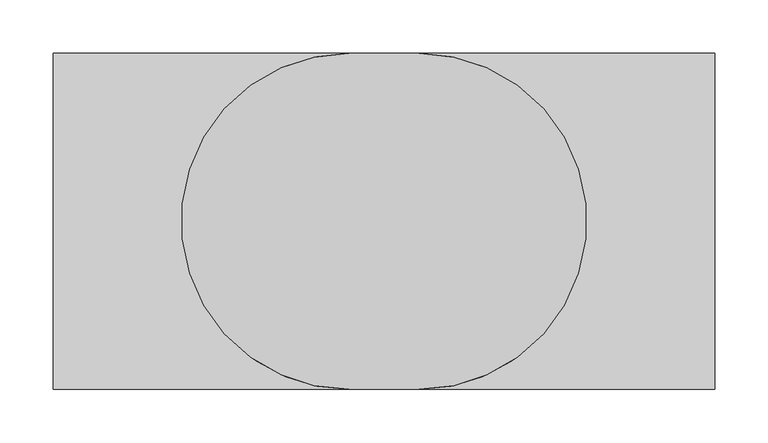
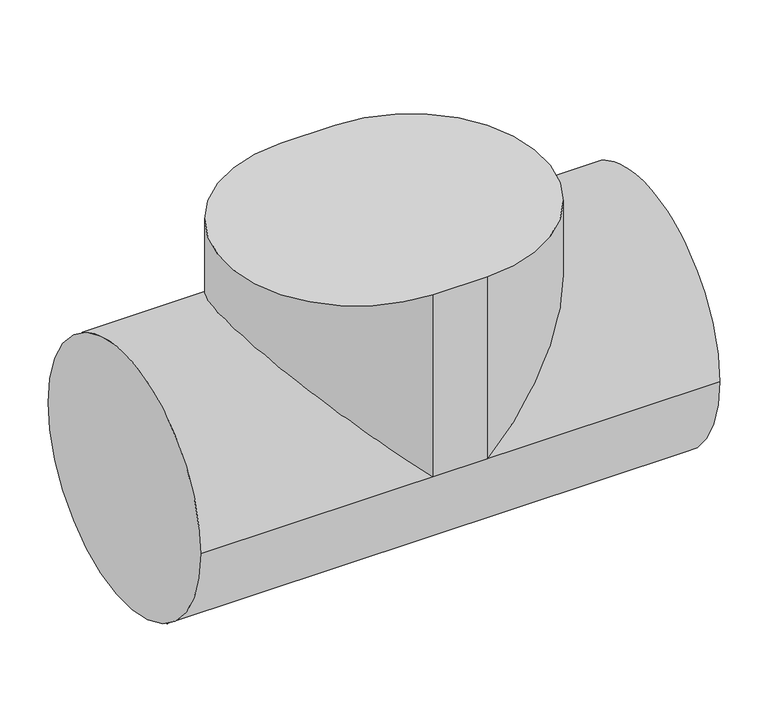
"""IFC4 building model written with IfcOpenShell, lengths in millimetres: pipe fitting geometry, NLRS_52_PIF_UN_PE ontstoppingsstuk 90° met ovale service-opening_geb : DN100-300 / ø110-315."""

import ifcopenshell
import ifcopenshell.guid

model = None  # the IFC model being written
_history = None  # IfcOwnerHistory: only IFC2X3 demands one
_inside = {}  # id of a spatial element -> (the spatial element, [elements in it])
_under = {}  # id of a project, library or spatial element -> (it, [spatial elements below it])
_declared = {}  # id of a project -> (the project, [libraries it declares])
_typed = {}  # id of a type object -> (the type object, [elements of that type])
_made_of = {}  # id of a material, layer set ... -> (it, [elements and type objects made of it])


def new_model(schema):
    """Start an empty IFC model of exactly this schema.

    Asked for "IFC4X3", IfcOpenShell would pick the latest addendum, in which some entities
    have other attributes; the version numbers below select the first issue.
    IFC2X3 requires an IfcOwnerHistory on every rooted entity: one is made here for all.
    """
    global model, _history
    if schema == "IFC4X3":
        model = ifcopenshell.file(schema_version=(4, 3, 0, 0))
    else:
        model = ifcopenshell.file(schema=schema)
    _inside.clear()
    _under.clear()
    _declared.clear()
    _typed.clear()
    _made_of.clear()
    _history = None
    if model.schema == "IFC2X3":
        org = make("IfcOrganization", Name="unknown")
        user = make(
            "IfcPersonAndOrganization",
            ThePerson=make("IfcPerson", FamilyName="unknown"),
            TheOrganization=org,
        )
        app = make(
            "IfcApplication",
            ApplicationDeveloper=org,
            Version="unknown",
            ApplicationFullName="unknown",
            ApplicationIdentifier="unknown",
        )
        _history = make(
            "IfcOwnerHistory",
            OwningUser=user,
            OwningApplication=app,
            ChangeAction="ADDED",
            CreationDate=0,
        )
    return model


def make(cls, **values):
    """One entity of the class cls with the attributes given. An attribute that is None is left unset."""
    return model.create_entity(
        cls, **{name: value for name, value in values.items() if value is not None}
    )


def rooted(cls, **values):
    """An entity with a GlobalId (a new one), such as an element, a storey or a relation."""
    return make(cls, GlobalId=ifcopenshell.guid.new(), OwnerHistory=_history, **values)


def si_unit(unit_type, name, prefix=None):
    """IfcSIUnit, for example si_unit("LENGTHUNIT", "METRE", prefix="MILLI")."""
    return make("IfcSIUnit", UnitType=unit_type, Prefix=prefix, Name=name)


def assignment(units):
    """IfcUnitAssignment: the units of a project."""
    return None if units is None else make("IfcUnitAssignment", Units=units)


def point(xyz):
    """IfcCartesianPoint."""
    return None if xyz is None else make("IfcCartesianPoint", Coordinates=xyz)


def direction(xyz):
    """IfcDirection."""
    return None if xyz is None else make("IfcDirection", DirectionRatios=xyz)


def frame(location, z_axis=None, x_axis=None):
    """IfcAxis2Placement3D, a coordinate frame: its origin and axes. An axis left out is left unset."""
    return make(
        "IfcAxis2Placement3D",
        Location=point(location),
        Axis=direction(z_axis),
        RefDirection=direction(x_axis),
    )


def origin():
    """The frame at (0, 0, 0) with its axes left unset."""
    return frame((0.0, 0.0, 0.0))


def place(relative_to, where):
    """IfcLocalPlacement: puts the frame where relative to a parent placement (None: the world)."""
    return make(
        "IfcLocalPlacement", PlacementRelTo=relative_to, RelativePlacement=where
    )


def context(
    kind, dimensions, precision=None, world=None, true_north=None, identifier=None
):
    """IfcGeometricRepresentationContext, for example the 3D "Model" context."""
    return make(
        "IfcGeometricRepresentationContext",
        ContextIdentifier=identifier,
        ContextType=kind,
        CoordinateSpaceDimension=dimensions,
        Precision=precision,
        WorldCoordinateSystem=world,
        TrueNorth=true_north,
    )


def project(units=None, contexts=None):
    """IfcProject with its units and contexts."""
    return rooted(
        "IfcProject",
        Name="project",
        RepresentationContexts=contexts,
        UnitsInContext=assignment(units),
    )


def spatial(cls, under=None, at=None, **own):
    """A site, building, storey or space (cls), placed at a placement, below another one or the project."""
    s = rooted(cls, ObjectPlacement=at, **own)
    if under is not None:
        _under.setdefault(under.id(), (under, []))[1].append(s)
    return s


def circle_curve(where, radius):
    """IfcCircle in the frame where."""
    return make("IfcCircle", Position=where, Radius=radius)


def ellipse_curve(where, semi_axis1, semi_axis2):
    """IfcEllipse in the frame where."""
    return make(
        "IfcEllipse", Position=where, SemiAxis1=semi_axis1, SemiAxis2=semi_axis2
    )


def shape(context_of_items, identifier, shape_type, items):
    """IfcShapeRepresentation: the items that make up one representation, for example the "Body"."""
    return make(
        "IfcShapeRepresentation",
        ContextOfItems=context_of_items,
        RepresentationIdentifier=identifier,
        RepresentationType=shape_type,
        Items=items,
    )


def source(mapping_origin, context_of_items, identifier, shape_type, items):
    """IfcRepresentationMap: a shape defined once, which mapped items show again and again."""
    return make(
        "IfcRepresentationMap",
        MappingOrigin=mapping_origin,
        MappedRepresentation=shape(context_of_items, identifier, shape_type, items),
    )


def transform(
    local_origin,
    x_axis=None,
    y_axis=None,
    z_axis=None,
    scale=None,
    scale2=None,
    scale3=None,
    uniform=True,
):
    """IfcCartesianTransformationOperator3D, or its non-uniform kind. x_axis, y_axis, z_axis: its Axis1, 2, 3."""
    if uniform:
        return make(
            "IfcCartesianTransformationOperator3D",
            Axis1=direction(x_axis),
            Axis2=direction(y_axis),
            LocalOrigin=point(local_origin),
            Scale=scale,
            Axis3=direction(z_axis),
        )
    return make(
        "IfcCartesianTransformationOperator3DnonUniform",
        Axis1=direction(x_axis),
        Axis2=direction(y_axis),
        LocalOrigin=point(local_origin),
        Scale=scale,
        Axis3=direction(z_axis),
        Scale2=scale2,
        Scale3=scale3,
    )


def mapped(mapping_source, mapping_target):
    """IfcMappedItem: shows the shape of a source again, moved by a transform."""
    return make(
        "IfcMappedItem", MappingSource=mapping_source, MappingTarget=mapping_target
    )


def made_of(thing, what):
    """Note that an element or type object is made of a material, layer set ...; save() writes the relation."""
    if what is not None:
        _made_of.setdefault(what.id(), (what, []))[1].append(thing)
    return thing


def element(
    cls,
    number,
    at=None,
    inside=None,
    cuts=None,
    type_object=None,
    material=None,
    context=None,
    identifier="Body",
    shape_type=None,
    held_by="IfcProductDefinitionShape",
    body=None,
    shapes=None,
    **own,
):
    """One element of the class cls, such as IfcWall. Its Tag is "e" and its number.

    at: its placement. inside: the storey or other place that contains it. cuts: it is an
    opening in that element (IfcRelVoidsElement). A single representation is given by context,
    identifier, shape_type and body (its items); several are given by shapes. held_by: the class
    of the entity that holds the representations. save() writes the other relations.
    """
    e = rooted(cls, Tag="e%d" % number, ObjectPlacement=at, **own)
    if body is not None:
        shapes = [shape(context, identifier, shape_type, body)]
    if shapes is not None:
        e.Representation = make(held_by, Representations=shapes)
    if inside is not None:
        _inside.setdefault(inside.id(), (inside, []))[1].append(e)
    if cuts is not None:
        rooted(
            "IfcRelVoidsElement", RelatingBuildingElement=cuts, RelatedOpeningElement=e
        )
    if type_object is not None:
        _typed.setdefault(type_object.id(), (type_object, []))[1].append(e)
    return made_of(e, material)


def aggregate(whole, parts):
    """IfcRelAggregates: a whole, such as a stair, and the parts it consists of."""
    return rooted("IfcRelAggregates", RelatingObject=whole, RelatedObjects=parts)


def save(model, path):
    """Write the relations noted so far, then the file.

    IfcRelAggregates (storeys below a building ...), IfcRelContainedInSpatialStructure (elements
    in a storey), IfcRelDefinesByType, IfcRelAssociatesMaterial and IfcRelDeclares: one each for
    every whole, place, type object, material and project.
    """
    for whole, parts in _under.values():
        aggregate(whole, parts)
    for where, things in _inside.values():
        rooted(
            "IfcRelContainedInSpatialStructure",
            RelatedElements=things,
            RelatingStructure=where,
        )
    for kind, things in _typed.values():
        rooted("IfcRelDefinesByType", RelatedObjects=things, RelatingType=kind)
    for what, things in _made_of.values():
        rooted("IfcRelAssociatesMaterial", RelatedObjects=things, RelatingMaterial=what)
    for by, libraries in _declared.values():
        rooted("IfcRelDeclares", RelatingContext=by, RelatedDefinitions=libraries)
    model.write(path)


def plane_surface(at):
    """IfcPlane: the flat surface through the origin of the frame at, square to its z axis."""
    return make("IfcPlane", Position=at)


def cylinder_surface(at, radius):
    """IfcCylindricalSurface: all points at the distance radius from the z axis of the frame at."""
    return make("IfcCylindricalSurface", Position=at, Radius=radius)


def advanced_brep(points, edges, surfaces, faces):
    """IfcAdvancedBrep: a solid bounded by faces that lie on surfaces and meet in shared edges.

    An edge is (start, end): straight between two places in points (the first is 0);
    or (start, end, curve); or (start, end, curve, False) where it runs against its curve.
    A face is (place in surfaces, loops), or (place, loops, False) where it looks against
    its surface's normal. A loop lists edges by number (the first is 1), with a minus sign
    where the edge is run from its end to its start. The first loop is the outer one.
    """
    corners = [point(p) for p in points]
    vertices = [make("IfcVertexPoint", VertexGeometry=c) for c in corners]
    made = []
    for start, end, *more in edges:
        made.append(
            make(
                "IfcEdgeCurve",
                EdgeStart=vertices[start],
                EdgeEnd=vertices[end],
                EdgeGeometry=more[0] if more else make("IfcPolyline", Points=[corners[start], corners[end]]),
                SameSense=more[1] if len(more) > 1 else True,
            )
        )
    hull = []
    for where, loops, *sense in faces:
        bounds = []
        for j, loop in enumerate(loops):
            ring = [make("IfcOrientedEdge", EdgeElement=made[abs(k) - 1], Orientation=k > 0) for k in loop]
            bounds.append(
                make(
                    "IfcFaceOuterBound" if j == 0 else "IfcFaceBound",
                    Bound=make("IfcEdgeLoop", EdgeList=ring),
                    Orientation=True,
                )
            )
        hull.append(make("IfcAdvancedFace", Bounds=bounds, FaceSurface=surfaces[where], SameSense=sense[0] if sense else True))
    return make("IfcAdvancedBrep", Outer=make("IfcClosedShell", CfsFaces=hull))


def pipe_fitting_3d7ed814(model_context):
    return source(origin(), model_context, "Body", "AdvancedBrep", [
        advanced_brep(
        [(32.5, 157.5, 230.0), (-32.5, 157.5, 230.0), (-32.5, -157.5, 230.0), (32.5, -157.5, 230.0), (32.5, 157.5, 0.0), (-32.5, 157.5, 0.0), (-32.5, -157.5, 0.0), (32.5, -157.5, 0.0), (310.0, -157.5, 0.0), (310.0, 157.5, 0.0), (-310.0, -157.5, 0.0), (-310.0, 157.5, 0.0)],
        [
            (0, 1),
            (1, 2, circle_curve(frame((-32.5, 0.0, 230.0), z_axis=(0.0, 0.0, 1.0), x_axis=(1.0, 0.0, 0.0)), 157.5)),
            (2, 3),
            (3, 0, circle_curve(frame((32.5, 0.0, 230.0), z_axis=(0.0, 0.0, 1.0), x_axis=(1.0, 0.0, 0.0)), 157.5)),
            (0, 4),
            (4, 5),
            (5, 1),
            (5, 6, ellipse_curve(frame((-32.5, 0.0, 0.0), z_axis=(0.7071067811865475, 0.0, 0.7071067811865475), x_axis=(-0.7071067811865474, 0.0, 0.7071067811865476)), 222.7386361, 157.5)),
            (6, 2),
            (6, 7),
            (7, 3),
            (7, 4, ellipse_curve(frame((32.5, 0.0, 0.0), z_axis=(-0.7071067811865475, 0.0, 0.7071067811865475), x_axis=(0.7071067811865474, 0.0, 0.7071067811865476)), 222.7386361, 157.5)),
            (8, 9, circle_curve(frame((310.0, 0.0, 0.0), z_axis=(1.0, 0.0, 0.0), x_axis=(0.0, 1.0, 0.0)), 157.5)),
            (9, 8, circle_curve(frame((310.0, 0.0, 0.0), z_axis=(1.0, 0.0, 0.0), x_axis=(0.0, 1.0, 0.0)), 157.5)),
            (10, 11, circle_curve(frame((-310.0, 0.0, 0.0), z_axis=(-1.0, 0.0, 0.0), x_axis=(0.0, 1.0, 0.0)), 157.5)),
            (11, 10, circle_curve(frame((-310.0, 0.0, 0.0), z_axis=(-1.0, 0.0, 0.0), x_axis=(0.0, 1.0, 0.0)), 157.5)),
            (8, 7),
            (6, 10),
            (11, 5),
            (4, 9),
        ],
        [
            plane_surface(frame((-32.5, 157.5, 230.0), z_axis=(0.0, 0.0, 1.0), x_axis=(-1.0, 0.0, 0.0))),
            plane_surface(frame((32.5, 157.5, 230.0), z_axis=(0.0, 1.0, 0.0), x_axis=(0.0, 0.0, -1.0))),
            cylinder_surface(frame((-32.5, 0.0, 0.0), z_axis=(0.0, 0.0, 1.0), x_axis=(1.0, 0.0, 0.0)), 157.5),
            plane_surface(frame((-32.5, -157.5, 230.0), z_axis=(0.0, -1.0, 0.0), x_axis=(0.0, 0.0, -1.0))),
            cylinder_surface(frame((32.5, 0.0, 0.0), z_axis=(0.0, 0.0, 1.0), x_axis=(1.0, 0.0, 0.0)), 157.5),
            plane_surface(frame((310.0, 157.5, 0.0), z_axis=(1.0, 0.0, 0.0), x_axis=(0.0, 0.0, 1.0))),
            plane_surface(frame((-310.0, 157.5, 0.0), z_axis=(-1.0, 0.0, 0.0), x_axis=(0.0, 0.0, -1.0))),
            cylinder_surface(frame((-310.0, 0.0, 0.0), z_axis=(1.0, 0.0, 0.0), x_axis=(0.0, 1.0, 0.0)), 157.5),
        ],
        [
            (0, [[1, 2, 3, 4]]),
            (1, [[-1, 5, 6, 7]]),
            (2, [[-2, -7, 8, 9]]),
            (3, [[-3, -9, 10, 11]]),
            (4, [[-4, -11, 12, -5]]),
            (5, [[13, 14]]),
            (6, [[15, 16]]),
            (7, [[-13, 17, -10, 18, -16, 19, -6, 20]]),
            (7, [[-14, -20, -12, -17]]),
            (7, [[-15, -18, -8, -19]]),
        ],
    ),
    ])


if __name__ == "__main__":
    model = new_model("IFC4")
    model_context = context("Model", 3, world=origin())
    ifc_project = project(units=[si_unit("LENGTHUNIT", "METRE", prefix="MILLI")], contexts=[model_context])
    site = spatial("IfcSite", under=ifc_project)
    building = spatial("IfcBuilding", under=site)
    placement = place(None, origin())
    pipe_fitting_shape = pipe_fitting_3d7ed814(model_context)
    element("IfcPipeFitting", 1, ObjectType="NLRS_52_PIF_UN_PE ontstoppingsstuk 90° met ovale service-opening_geb : DN100-300 / ø110-315", at=placement, inside=building, context=model_context, shape_type="MappedRepresentation", body=[
        mapped(pipe_fitting_shape, transform((0.0, 0.0, 0.0), x_axis=(1.0, 0.0, 0.0), y_axis=(0.0, 1.0, 0.0), z_axis=(0.0, 0.0, 1.0))),
    ])
    save(model, "model.ifc")
